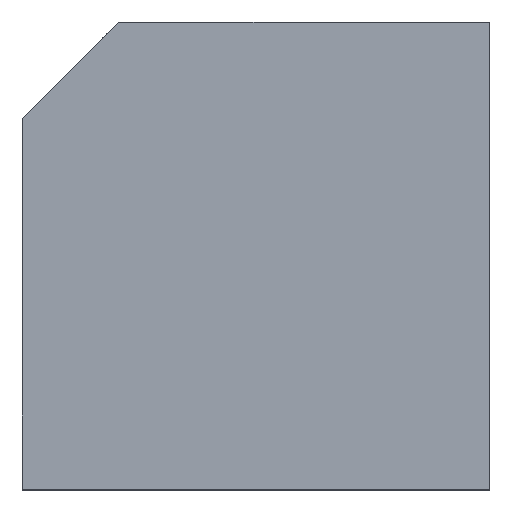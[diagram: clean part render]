
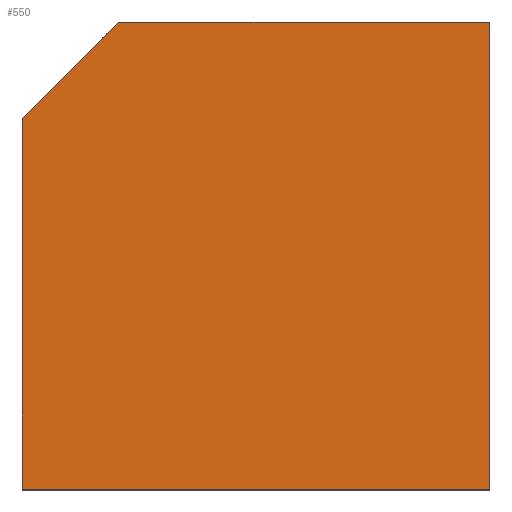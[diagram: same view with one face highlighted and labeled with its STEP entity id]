
A CAD part, top view. The second image highlights one B-rep face of the part: STEP entity #550.
In plain terms, the highlighted planar face has unit normal (0, 0, 1).
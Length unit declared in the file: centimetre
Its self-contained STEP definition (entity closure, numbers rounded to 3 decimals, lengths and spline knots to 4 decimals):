
#109 = FACE_OUTER_BOUND ( 'NONE', #123, .T. ) ;
#123 = EDGE_LOOP ( 'NONE', ( #850, #772, #1529, #673, #374 ) ) ;
#170 = VECTOR ( 'NONE', #1566, 100. ) ;
#176 = DIRECTION ( 'NONE',  ( -1., 0., 0. ) ) ;
#206 = EDGE_CURVE ( 'NONE', #1178, #1494, #718, .T. ) ;
#221 = LINE ( 'NONE', #936, #1004 ) ;
#268 = DIRECTION ( 'NONE',  ( -0.707, -0.707, 0. ) ) ;
#374 = ORIENTED_EDGE ( 'NONE', *, *, #1059, .T. ) ;
#414 = EDGE_CURVE ( 'NONE', #1542, #1178, #508, .T. ) ;
#494 = EDGE_CURVE ( 'NONE', #683, #1542, #750, .T. ) ;
#508 = LINE ( 'NONE', #1229, #1522 ) ;
#529 = CARTESIAN_POINT ( 'NONE',  ( 0., 1000., 1000. ) ) ;
#550 = ADVANCED_FACE ( 'NONE', ( #109 ), #1064, .T. ) ;
#642 = DIRECTION ( 'NONE',  ( 0., -1., 0. ) ) ;
#673 = ORIENTED_EDGE ( 'NONE', *, *, #206, .T. ) ;
#683 = VERTEX_POINT ( 'NONE', #1471 ) ;
#718 = LINE ( 'NONE', #841, #170 ) ;
#750 = LINE ( 'NONE', #1120, #1490 ) ;
#772 = ORIENTED_EDGE ( 'NONE', *, *, #494, .T. ) ;
#841 = CARTESIAN_POINT ( 'NONE',  ( 0., 0., 1000. ) ) ;
#850 = ORIENTED_EDGE ( 'NONE', *, *, #1403, .T. ) ;
#936 = CARTESIAN_POINT ( 'NONE',  ( 1000., 1000., 1000. ) ) ;
#940 = CARTESIAN_POINT ( 'NONE',  ( 1000., 0., 1000. ) ) ;
#944 = DIRECTION ( 'NONE',  ( 0., 0., 1. ) ) ;
#1004 = VECTOR ( 'NONE', #1065, 100. ) ;
#1059 = EDGE_CURVE ( 'NONE', #1494, #1536, #221, .T. ) ;
#1064 = PLANE ( 'NONE',  #1193 ) ;
#1065 = DIRECTION ( 'NONE',  ( 0., 1., 0. ) ) ;
#1120 = CARTESIAN_POINT ( 'NONE',  ( -396.9849, 396.9849, 1000. ) ) ;
#1178 = VERTEX_POINT ( 'NONE', #1452 ) ;
#1193 = AXIS2_PLACEMENT_3D ( 'NONE', #1313, #944, #1433 ) ;
#1229 = CARTESIAN_POINT ( 'NONE',  ( 0., 1000., 1000. ) ) ;
#1286 = CARTESIAN_POINT ( 'NONE',  ( 0., 793.9697, 1000. ) ) ;
#1313 = CARTESIAN_POINT ( 'NONE',  ( 0., 0., 1000. ) ) ;
#1356 = VECTOR ( 'NONE', #176, 100. ) ;
#1403 = EDGE_CURVE ( 'NONE', #1536, #683, #1487, .T. ) ;
#1433 = DIRECTION ( 'NONE',  ( 1., 0., 0. ) ) ;
#1452 = CARTESIAN_POINT ( 'NONE',  ( 0., 0., 1000. ) ) ;
#1471 = CARTESIAN_POINT ( 'NONE',  ( 206.0303, 1000., 1000. ) ) ;
#1487 = LINE ( 'NONE', #529, #1356 ) ;
#1490 = VECTOR ( 'NONE', #268, 100. ) ;
#1494 = VERTEX_POINT ( 'NONE', #940 ) ;
#1522 = VECTOR ( 'NONE', #642, 100. ) ;
#1529 = ORIENTED_EDGE ( 'NONE', *, *, #414, .T. ) ;
#1536 = VERTEX_POINT ( 'NONE', #1556 ) ;
#1542 = VERTEX_POINT ( 'NONE', #1286 ) ;
#1556 = CARTESIAN_POINT ( 'NONE',  ( 1000., 1000., 1000. ) ) ;
#1566 = DIRECTION ( 'NONE',  ( 1., 0., 0. ) ) ;
